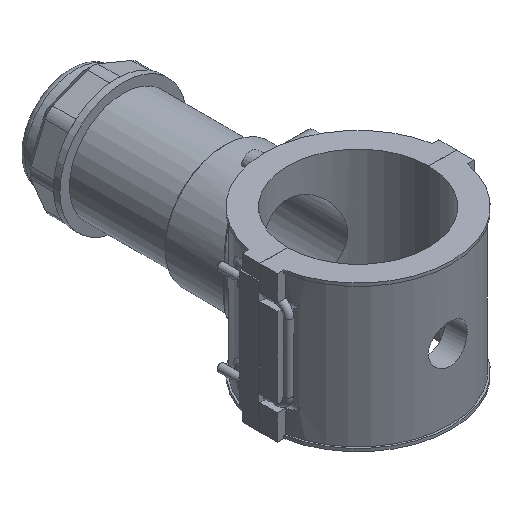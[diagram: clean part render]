
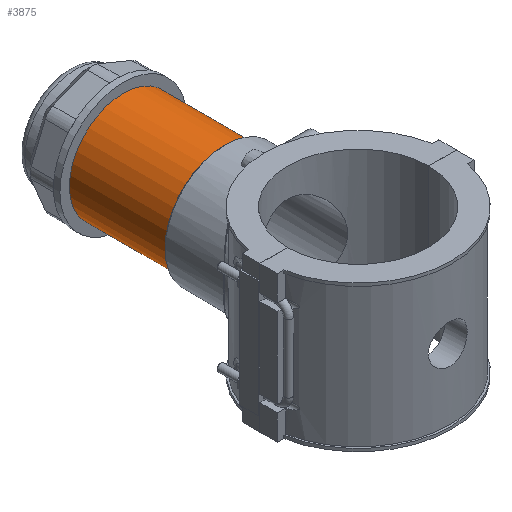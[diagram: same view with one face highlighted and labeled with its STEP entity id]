
A CAD part, isometric view. The second image highlights one B-rep face of the part: STEP entity #3875.
In plain terms, the highlighted cylindrical face has radius 43.643 mm (diameter 87.287 mm), a full revolution.
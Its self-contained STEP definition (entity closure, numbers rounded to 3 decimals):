
#57=FACE_BOUND('',#568,.T.);
#85=B_SPLINE_CURVE_WITH_KNOTS('',3,(#5797,#5798,#5799,#5800,#5801,#5802,
#5803,#5804,#5805,#5806),.UNSPECIFIED.,.F.,.F.,(4,2,2,2,4),(0.,0.298,
0.597,0.895,1.193),.UNSPECIFIED.);
#86=B_SPLINE_CURVE_WITH_KNOTS('',3,(#5807,#5808,#5809,#5810,#5811,#5812,
#5813,#5814,#5815,#5816,#5817,#5818,#5819,#5820,#5821,#5822,#5823,#5824,
#5825,#5826,#5827,#5828,#5829,#5830,#5831,#5832),.UNSPECIFIED.,.F.,.F.,
(4,2,2,2,2,2,2,2,2,2,2,2,4),(1.193,1.491,1.79,
2.088,2.386,2.685,2.983,3.281,
3.579,3.878,4.176,4.474,4.773),
 .UNSPECIFIED.);
#347=FACE_OUTER_BOUND('',#567,.T.);
#567=EDGE_LOOP('',(#2858,#2859,#2860,#2861,#2862,#2863));
#568=EDGE_LOOP('',(#2864,#2865));
#798=CIRCLE('',#4156,43.643);
#799=CIRCLE('',#4157,43.643);
#812=CIRCLE('',#4184,43.643);
#813=CIRCLE('',#4185,43.643);
#987=LINE('',#6082,#1326);
#1326=VECTOR('',#4773,43.643);
#1624=VERTEX_POINT('',#5794);
#1625=VERTEX_POINT('',#5796);
#1687=VERTEX_POINT('',#6023);
#1688=VERTEX_POINT('',#6024);
#1702=VERTEX_POINT('',#6078);
#1703=VERTEX_POINT('',#6079);
#2011=EDGE_CURVE('',#1625,#1624,#85,.T.);
#2012=EDGE_CURVE('',#1624,#1625,#86,.T.);
#2107=EDGE_CURVE('',#1687,#1688,#798,.T.);
#2108=EDGE_CURVE('',#1688,#1687,#799,.T.);
#2133=EDGE_CURVE('',#1702,#1703,#812,.T.);
#2134=EDGE_CURVE('',#1703,#1702,#813,.T.);
#2135=EDGE_CURVE('',#1703,#1688,#987,.T.);
#2858=ORIENTED_EDGE('',*,*,#2133,.F.);
#2859=ORIENTED_EDGE('',*,*,#2134,.F.);
#2860=ORIENTED_EDGE('',*,*,#2135,.T.);
#2861=ORIENTED_EDGE('',*,*,#2108,.T.);
#2862=ORIENTED_EDGE('',*,*,#2107,.T.);
#2863=ORIENTED_EDGE('',*,*,#2135,.F.);
#2864=ORIENTED_EDGE('',*,*,#2011,.T.);
#2865=ORIENTED_EDGE('',*,*,#2012,.T.);
#3776=CYLINDRICAL_SURFACE('',#4183,43.643);
#3875=ADVANCED_FACE('',(#347,#57),#3776,.T.);
#4156=AXIS2_PLACEMENT_3D('',#6025,#4701,#4702);
#4157=AXIS2_PLACEMENT_3D('',#6026,#4703,#4704);
#4183=AXIS2_PLACEMENT_3D('',#6077,#4767,#4768);
#4184=AXIS2_PLACEMENT_3D('',#6080,#4769,#4770);
#4185=AXIS2_PLACEMENT_3D('',#6081,#4771,#4772);
#4701=DIRECTION('center_axis',(0.,1.,0.));
#4702=DIRECTION('ref_axis',(1.,0.,0.));
#4703=DIRECTION('center_axis',(0.,1.,0.));
#4704=DIRECTION('ref_axis',(1.,0.,0.));
#4767=DIRECTION('center_axis',(0.,1.,0.));
#4768=DIRECTION('ref_axis',(0.,0.,1.));
#4769=DIRECTION('center_axis',(0.,1.,0.));
#4770=DIRECTION('ref_axis',(1.,0.,0.));
#4771=DIRECTION('center_axis',(0.,1.,0.));
#4772=DIRECTION('ref_axis',(1.,0.,0.));
#4773=DIRECTION('',(0.,-1.,0.));
#5794=CARTESIAN_POINT('',(43.643,114.174,0.));
#5796=CARTESIAN_POINT('',(42.922,122.074,-7.9));
#5797=CARTESIAN_POINT('Ctrl Pts',(42.922,122.074,-7.9));
#5798=CARTESIAN_POINT('Ctrl Pts',(42.922,121.08,-7.9));
#5799=CARTESIAN_POINT('Ctrl Pts',(42.96,120.021,-7.701));
#5800=CARTESIAN_POINT('Ctrl Pts',(43.097,118.075,-6.894));
#5801=CARTESIAN_POINT('Ctrl Pts',(43.194,117.188,-6.286));
#5802=CARTESIAN_POINT('Ctrl Pts',(43.375,115.788,-4.886));
#5803=CARTESIAN_POINT('Ctrl Pts',(43.471,115.18,-3.999));
#5804=CARTESIAN_POINT('Ctrl Pts',(43.606,114.373,-2.053));
#5805=CARTESIAN_POINT('Ctrl Pts',(43.643,114.174,-0.994));
#5806=CARTESIAN_POINT('Ctrl Pts',(43.643,114.174,0.));
#5807=CARTESIAN_POINT('Ctrl Pts',(43.643,114.174,0.));
#5808=CARTESIAN_POINT('Ctrl Pts',(43.643,114.174,0.994));
#5809=CARTESIAN_POINT('Ctrl Pts',(43.606,114.373,2.053));
#5810=CARTESIAN_POINT('Ctrl Pts',(43.471,115.18,3.999));
#5811=CARTESIAN_POINT('Ctrl Pts',(43.375,115.788,4.886));
#5812=CARTESIAN_POINT('Ctrl Pts',(43.194,117.188,6.286));
#5813=CARTESIAN_POINT('Ctrl Pts',(43.097,118.075,6.894));
#5814=CARTESIAN_POINT('Ctrl Pts',(42.96,120.021,7.701));
#5815=CARTESIAN_POINT('Ctrl Pts',(42.922,121.08,7.9));
#5816=CARTESIAN_POINT('Ctrl Pts',(42.922,123.068,7.9));
#5817=CARTESIAN_POINT('Ctrl Pts',(42.96,124.127,7.701));
#5818=CARTESIAN_POINT('Ctrl Pts',(43.097,126.073,6.894));
#5819=CARTESIAN_POINT('Ctrl Pts',(43.194,126.96,6.286));
#5820=CARTESIAN_POINT('Ctrl Pts',(43.375,128.36,4.886));
#5821=CARTESIAN_POINT('Ctrl Pts',(43.471,128.968,3.999));
#5822=CARTESIAN_POINT('Ctrl Pts',(43.606,129.775,2.053));
#5823=CARTESIAN_POINT('Ctrl Pts',(43.643,129.974,0.994));
#5824=CARTESIAN_POINT('Ctrl Pts',(43.643,129.974,-0.994));
#5825=CARTESIAN_POINT('Ctrl Pts',(43.606,129.775,-2.053));
#5826=CARTESIAN_POINT('Ctrl Pts',(43.471,128.968,-3.999));
#5827=CARTESIAN_POINT('Ctrl Pts',(43.375,128.36,-4.886));
#5828=CARTESIAN_POINT('Ctrl Pts',(43.194,126.96,-6.286));
#5829=CARTESIAN_POINT('Ctrl Pts',(43.097,126.073,-6.894));
#5830=CARTESIAN_POINT('Ctrl Pts',(42.96,124.127,-7.701));
#5831=CARTESIAN_POINT('Ctrl Pts',(42.922,123.068,-7.9));
#5832=CARTESIAN_POINT('Ctrl Pts',(42.922,122.074,-7.9));
#6023=CARTESIAN_POINT('',(0.,108.462,43.643));
#6024=CARTESIAN_POINT('',(0.,108.462,-43.643));
#6025=CARTESIAN_POINT('Origin',(0.,108.462,0.));
#6026=CARTESIAN_POINT('Origin',(0.,108.462,0.));
#6077=CARTESIAN_POINT('Origin',(0.,149.145,0.));
#6078=CARTESIAN_POINT('',(0.,189.829,43.643));
#6079=CARTESIAN_POINT('',(0.,189.829,-43.643));
#6080=CARTESIAN_POINT('Origin',(0.,189.829,0.));
#6081=CARTESIAN_POINT('Origin',(0.,189.829,0.));
#6082=CARTESIAN_POINT('',(0.,149.145,-43.643));
